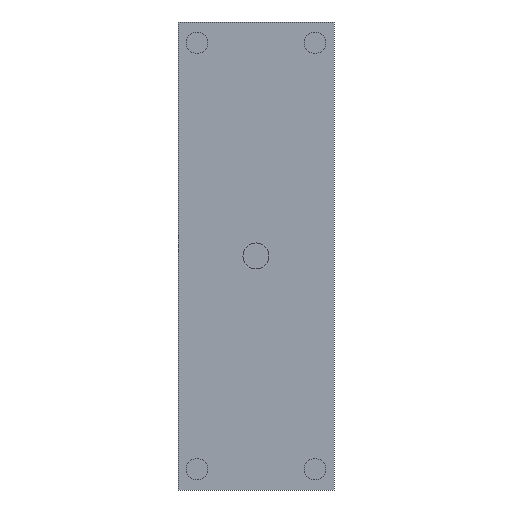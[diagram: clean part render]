
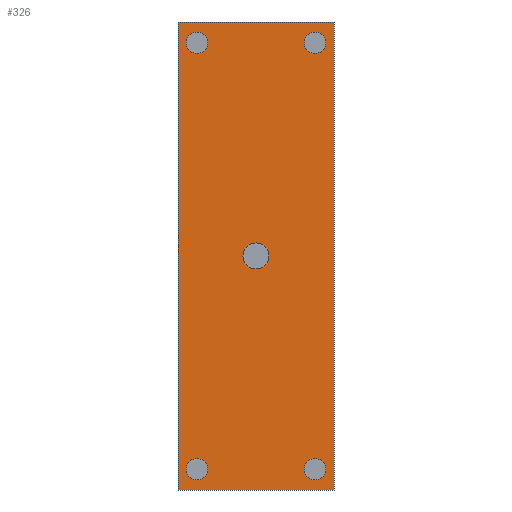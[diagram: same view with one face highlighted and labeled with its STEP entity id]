
A CAD part, front view. The second image highlights one B-rep face of the part: STEP entity #326.
In plain terms, the highlighted planar face has unit normal (0, -1, 0).
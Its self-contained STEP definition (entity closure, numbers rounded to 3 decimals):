
#1=CARTESIAN_POINT('',(17.,0.,61.5));
#2=DIRECTION('',(0.,1.,0.));
#3=DIRECTION('',(-1.,0.,0.));
#4=AXIS2_PLACEMENT_3D('',#1,#2,#3);
#6=CARTESIAN_POINT('',(17.,0.,61.5));
#7=DIRECTION('',(0.,1.,0.));
#8=DIRECTION('',(1.,0.,0.));
#9=AXIS2_PLACEMENT_3D('',#6,#7,#8);
#11=CARTESIAN_POINT('',(-17.,0.,61.5));
#12=DIRECTION('',(0.,-1.,0.));
#13=DIRECTION('',(1.,0.,0.));
#14=AXIS2_PLACEMENT_3D('',#11,#12,#13);
#16=CARTESIAN_POINT('',(-17.,0.,61.5));
#17=DIRECTION('',(0.,-1.,0.));
#18=DIRECTION('',(-1.,0.,0.));
#19=AXIS2_PLACEMENT_3D('',#16,#17,#18);
#21=CARTESIAN_POINT('',(-17.,0.,-61.5));
#22=DIRECTION('',(0.,1.,0.));
#23=DIRECTION('',(1.,0.,0.));
#24=AXIS2_PLACEMENT_3D('',#21,#22,#23);
#26=CARTESIAN_POINT('',(-17.,0.,-61.5));
#27=DIRECTION('',(0.,1.,0.));
#28=DIRECTION('',(-1.,0.,0.));
#29=AXIS2_PLACEMENT_3D('',#26,#27,#28);
#31=CARTESIAN_POINT('',(17.,0.,-61.5));
#32=DIRECTION('',(0.,-1.,0.));
#33=DIRECTION('',(-1.,0.,0.));
#34=AXIS2_PLACEMENT_3D('',#31,#32,#33);
#36=CARTESIAN_POINT('',(17.,0.,-61.5));
#37=DIRECTION('',(0.,-1.,0.));
#38=DIRECTION('',(1.,0.,0.));
#39=AXIS2_PLACEMENT_3D('',#36,#37,#38);
#41=CARTESIAN_POINT('',(0.,0.,0.));
#42=DIRECTION('',(0.,-1.,0.));
#43=DIRECTION('',(0.,0.,1.));
#44=AXIS2_PLACEMENT_3D('',#41,#42,#43);
#46=CARTESIAN_POINT('',(0.,0.,0.));
#47=DIRECTION('',(0.,-1.,0.));
#48=DIRECTION('',(0.,0.,-1.));
#49=AXIS2_PLACEMENT_3D('',#46,#47,#48);
#140=CARTESIAN_POINT('',(-22.5,0.,67.5));
#142=DIRECTION('',(0.,0.,-1.));
#143=VECTOR('',#142,135.);
#144=CARTESIAN_POINT('',(-22.5,0.,67.5));
#145=LINE('',#144,#143);
#159=CARTESIAN_POINT('',(-22.5,0.,-67.5));
#161=DIRECTION('',(0.,0.,1.));
#162=VECTOR('',#161,135.);
#163=CARTESIAN_POINT('',(22.5,0.,-67.5));
#164=LINE('',#163,#162);
#178=CARTESIAN_POINT('',(22.5,0.,67.5));
#197=CARTESIAN_POINT('',(22.5,0.,-67.5));
#203=DIRECTION('',(1.,0.,0.));
#204=VECTOR('',#203,45.);
#205=CARTESIAN_POINT('',(-22.5,0.,67.5));
#206=LINE('',#205,#204);
#211=DIRECTION('',(1.,0.,0.));
#212=VECTOR('',#211,45.);
#213=CARTESIAN_POINT('',(-22.5,0.,-67.5));
#214=LINE('',#213,#212);
#234=VERTEX_POINT('',#197);
#239=CARTESIAN_POINT('',(13.9,0.,-61.5));
#240=CARTESIAN_POINT('',(20.1,0.,-61.5));
#241=VERTEX_POINT('',#239);
#242=VERTEX_POINT('',#240);
#244=VERTEX_POINT('',#159);
#249=CARTESIAN_POINT('',(-13.9,0.,-61.5));
#250=CARTESIAN_POINT('',(-20.1,0.,-61.5));
#251=VERTEX_POINT('',#249);
#252=VERTEX_POINT('',#250);
#254=VERTEX_POINT('',#178);
#259=CARTESIAN_POINT('',(13.9,0.,61.5));
#260=CARTESIAN_POINT('',(20.1,0.,61.5));
#261=VERTEX_POINT('',#259);
#262=VERTEX_POINT('',#260);
#264=VERTEX_POINT('',#140);
#269=CARTESIAN_POINT('',(-13.9,0.,61.5));
#270=CARTESIAN_POINT('',(-20.1,0.,61.5));
#271=VERTEX_POINT('',#269);
#272=VERTEX_POINT('',#270);
#277=CARTESIAN_POINT('',(0.,0.,3.75));
#278=CARTESIAN_POINT('',(0.,0.,-3.75));
#279=VERTEX_POINT('',#277);
#280=VERTEX_POINT('',#278);
#281=CARTESIAN_POINT('',(0.,0.,0.));
#282=DIRECTION('',(0.,1.,0.));
#283=DIRECTION('',(1.,0.,0.));
#284=AXIS2_PLACEMENT_3D('',#281,#282,#283);
#285=PLANE('',#284);
#287=ORIENTED_EDGE('',*,*,#286,.F.);
#289=ORIENTED_EDGE('',*,*,#288,.T.);
#291=ORIENTED_EDGE('',*,*,#290,.F.);
#293=ORIENTED_EDGE('',*,*,#292,.F.);
#294=EDGE_LOOP('',(#287,#289,#291,#293));
#295=FACE_OUTER_BOUND('',#294,.F.);
#297=ORIENTED_EDGE('',*,*,#296,.F.);
#299=ORIENTED_EDGE('',*,*,#298,.F.);
#300=EDGE_LOOP('',(#297,#299));
#301=FACE_BOUND('',#300,.F.);
#303=ORIENTED_EDGE('',*,*,#302,.T.);
#305=ORIENTED_EDGE('',*,*,#304,.T.);
#306=EDGE_LOOP('',(#303,#305));
#307=FACE_BOUND('',#306,.F.);
#309=ORIENTED_EDGE('',*,*,#308,.F.);
#311=ORIENTED_EDGE('',*,*,#310,.F.);
#312=EDGE_LOOP('',(#309,#311));
#313=FACE_BOUND('',#312,.F.);
#315=ORIENTED_EDGE('',*,*,#314,.T.);
#317=ORIENTED_EDGE('',*,*,#316,.T.);
#318=EDGE_LOOP('',(#315,#317));
#319=FACE_BOUND('',#318,.F.);
#321=ORIENTED_EDGE('',*,*,#320,.T.);
#323=ORIENTED_EDGE('',*,*,#322,.T.);
#324=EDGE_LOOP('',(#321,#323));
#325=FACE_BOUND('',#324,.F.);
#326=ADVANCED_FACE('',(#295,#301,#307,#313,#319,#325),#285,.F.);
#5=CIRCLE('',#4,3.1);
#10=CIRCLE('',#9,3.1);
#15=CIRCLE('',#14,3.1);
#20=CIRCLE('',#19,3.1);
#25=CIRCLE('',#24,3.1);
#30=CIRCLE('',#29,3.1);
#35=CIRCLE('',#34,3.1);
#40=CIRCLE('',#39,3.1);
#45=CIRCLE('',#44,3.75);
#50=CIRCLE('',#49,3.75);
#286=EDGE_CURVE('',#264,#244,#145,.T.);
#288=EDGE_CURVE('',#264,#254,#206,.T.);
#290=EDGE_CURVE('',#234,#254,#164,.T.);
#292=EDGE_CURVE('',#244,#234,#214,.T.);
#296=EDGE_CURVE('',#261,#262,#5,.T.);
#298=EDGE_CURVE('',#262,#261,#10,.T.);
#302=EDGE_CURVE('',#271,#272,#15,.T.);
#304=EDGE_CURVE('',#272,#271,#20,.T.);
#308=EDGE_CURVE('',#251,#252,#25,.T.);
#310=EDGE_CURVE('',#252,#251,#30,.T.);
#314=EDGE_CURVE('',#241,#242,#35,.T.);
#316=EDGE_CURVE('',#242,#241,#40,.T.);
#320=EDGE_CURVE('',#279,#280,#45,.T.);
#322=EDGE_CURVE('',#280,#279,#50,.T.);
